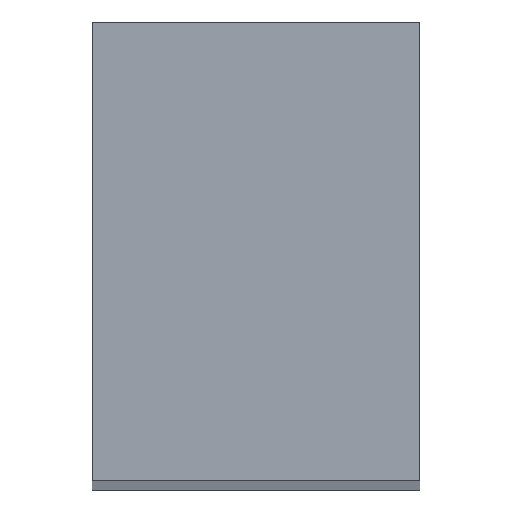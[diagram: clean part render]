
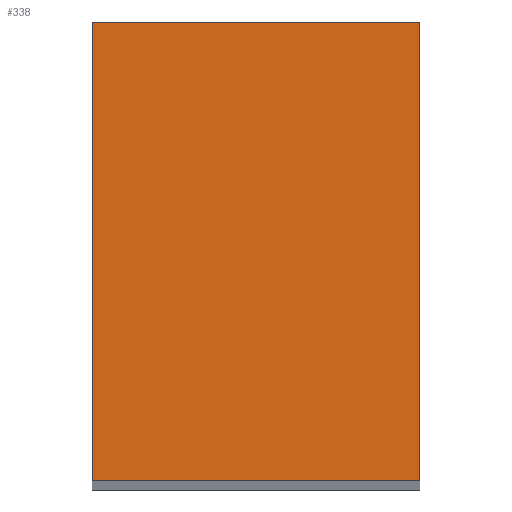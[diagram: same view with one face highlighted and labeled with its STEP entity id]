
A CAD part, top view. The second image highlights one B-rep face of the part: STEP entity #338.
In plain terms, the highlighted planar face has unit normal (0, 0, 1).
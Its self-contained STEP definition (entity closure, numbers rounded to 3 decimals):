
#24 = VERTEX_POINT('',#25);
#25 = CARTESIAN_POINT('',(105.,-184.,360.));
#32 = PLANE('',#33);
#33 = AXIS2_PLACEMENT_3D('',#34,#35,#36);
#34 = CARTESIAN_POINT('',(105.,-184.,28.));
#35 = DIRECTION('',(1.,0.,0.));
#36 = DIRECTION('',(0.,0.,1.));
#44 = PLANE('',#45);
#45 = AXIS2_PLACEMENT_3D('',#46,#47,#48);
#46 = CARTESIAN_POINT('',(105.,-184.,28.));
#47 = DIRECTION('',(0.,1.,0.));
#48 = DIRECTION('',(0.,0.,1.));
#85 = VERTEX_POINT('',#86);
#86 = CARTESIAN_POINT('',(105.,-156.,360.));
#100 = PLANE('',#101);
#101 = AXIS2_PLACEMENT_3D('',#102,#103,#104);
#102 = CARTESIAN_POINT('',(105.,-156.,28.));
#103 = DIRECTION('',(0.,1.,0.));
#104 = DIRECTION('',(0.,0.,1.));
#112 = EDGE_CURVE('',#24,#85,#113,.T.);
#113 = SURFACE_CURVE('',#114,(#118,#125),.PCURVE_S1.);
#114 = LINE('',#115,#116);
#115 = CARTESIAN_POINT('',(105.,-184.,360.));
#116 = VECTOR('',#117,1.);
#117 = DIRECTION('',(0.,1.,0.));
#118 = PCURVE('',#32,#119);
#119 = DEFINITIONAL_REPRESENTATION('',(#120),#124);
#120 = LINE('',#121,#122);
#121 = CARTESIAN_POINT('',(332.,0.));
#122 = VECTOR('',#123,1.);
#123 = DIRECTION('',(0.,-1.));
#124 = ( GEOMETRIC_REPRESENTATION_CONTEXT(2) 
PARAMETRIC_REPRESENTATION_CONTEXT() REPRESENTATION_CONTEXT('2D SPACE',''
  ) );
#125 = PCURVE('',#126,#131);
#126 = PLANE('',#127);
#127 = AXIS2_PLACEMENT_3D('',#128,#129,#130);
#128 = CARTESIAN_POINT('',(105.,-184.,360.));
#129 = DIRECTION('',(0.,0.,1.));
#130 = DIRECTION('',(1.,0.,0.));
#131 = DEFINITIONAL_REPRESENTATION('',(#132),#136);
#132 = LINE('',#133,#134);
#133 = CARTESIAN_POINT('',(0.,0.));
#134 = VECTOR('',#135,1.);
#135 = DIRECTION('',(0.,1.));
#136 = ( GEOMETRIC_REPRESENTATION_CONTEXT(2) 
PARAMETRIC_REPRESENTATION_CONTEXT() REPRESENTATION_CONTEXT('2D SPACE',''
  ) );
#144 = VERTEX_POINT('',#145);
#145 = CARTESIAN_POINT('',(125.,-184.,360.));
#152 = PLANE('',#153);
#153 = AXIS2_PLACEMENT_3D('',#154,#155,#156);
#154 = CARTESIAN_POINT('',(125.,-184.,28.));
#155 = DIRECTION('',(1.,0.,0.));
#156 = DIRECTION('',(0.,0.,1.));
#195 = VERTEX_POINT('',#196);
#196 = CARTESIAN_POINT('',(125.,-156.,360.));
#217 = EDGE_CURVE('',#144,#195,#218,.T.);
#218 = SURFACE_CURVE('',#219,(#223,#230),.PCURVE_S1.);
#219 = LINE('',#220,#221);
#220 = CARTESIAN_POINT('',(125.,-184.,360.));
#221 = VECTOR('',#222,1.);
#222 = DIRECTION('',(0.,1.,0.));
#223 = PCURVE('',#152,#224);
#224 = DEFINITIONAL_REPRESENTATION('',(#225),#229);
#225 = LINE('',#226,#227);
#226 = CARTESIAN_POINT('',(332.,0.));
#227 = VECTOR('',#228,1.);
#228 = DIRECTION('',(0.,-1.));
#229 = ( GEOMETRIC_REPRESENTATION_CONTEXT(2) 
PARAMETRIC_REPRESENTATION_CONTEXT() REPRESENTATION_CONTEXT('2D SPACE',''
  ) );
#230 = PCURVE('',#126,#231);
#231 = DEFINITIONAL_REPRESENTATION('',(#232),#236);
#232 = LINE('',#233,#234);
#233 = CARTESIAN_POINT('',(20.,0.));
#234 = VECTOR('',#235,1.);
#235 = DIRECTION('',(0.,1.));
#236 = ( GEOMETRIC_REPRESENTATION_CONTEXT(2) 
PARAMETRIC_REPRESENTATION_CONTEXT() REPRESENTATION_CONTEXT('2D SPACE',''
  ) );
#263 = EDGE_CURVE('',#24,#144,#264,.T.);
#264 = SURFACE_CURVE('',#265,(#269,#276),.PCURVE_S1.);
#265 = LINE('',#266,#267);
#266 = CARTESIAN_POINT('',(105.,-184.,360.));
#267 = VECTOR('',#268,1.);
#268 = DIRECTION('',(1.,0.,0.));
#269 = PCURVE('',#44,#270);
#270 = DEFINITIONAL_REPRESENTATION('',(#271),#275);
#271 = LINE('',#272,#273);
#272 = CARTESIAN_POINT('',(332.,0.));
#273 = VECTOR('',#274,1.);
#274 = DIRECTION('',(0.,1.));
#275 = ( GEOMETRIC_REPRESENTATION_CONTEXT(2) 
PARAMETRIC_REPRESENTATION_CONTEXT() REPRESENTATION_CONTEXT('2D SPACE',''
  ) );
#276 = PCURVE('',#126,#277);
#277 = DEFINITIONAL_REPRESENTATION('',(#278),#282);
#278 = LINE('',#279,#280);
#279 = CARTESIAN_POINT('',(0.,0.));
#280 = VECTOR('',#281,1.);
#281 = DIRECTION('',(1.,0.));
#282 = ( GEOMETRIC_REPRESENTATION_CONTEXT(2) 
PARAMETRIC_REPRESENTATION_CONTEXT() REPRESENTATION_CONTEXT('2D SPACE',''
  ) );
#310 = EDGE_CURVE('',#85,#195,#311,.T.);
#311 = SURFACE_CURVE('',#312,(#316,#323),.PCURVE_S1.);
#312 = LINE('',#313,#314);
#313 = CARTESIAN_POINT('',(105.,-156.,360.));
#314 = VECTOR('',#315,1.);
#315 = DIRECTION('',(1.,0.,0.));
#316 = PCURVE('',#100,#317);
#317 = DEFINITIONAL_REPRESENTATION('',(#318),#322);
#318 = LINE('',#319,#320);
#319 = CARTESIAN_POINT('',(332.,0.));
#320 = VECTOR('',#321,1.);
#321 = DIRECTION('',(0.,1.));
#322 = ( GEOMETRIC_REPRESENTATION_CONTEXT(2) 
PARAMETRIC_REPRESENTATION_CONTEXT() REPRESENTATION_CONTEXT('2D SPACE',''
  ) );
#323 = PCURVE('',#126,#324);
#324 = DEFINITIONAL_REPRESENTATION('',(#325),#329);
#325 = LINE('',#326,#327);
#326 = CARTESIAN_POINT('',(0.,28.));
#327 = VECTOR('',#328,1.);
#328 = DIRECTION('',(1.,0.));
#329 = ( GEOMETRIC_REPRESENTATION_CONTEXT(2) 
PARAMETRIC_REPRESENTATION_CONTEXT() REPRESENTATION_CONTEXT('2D SPACE',''
  ) );
#338 = ADVANCED_FACE('',(#339),#126,.T.);
#339 = FACE_BOUND('',#340,.T.);
#340 = EDGE_LOOP('',(#341,#342,#343,#344));
#341 = ORIENTED_EDGE('',*,*,#112,.F.);
#342 = ORIENTED_EDGE('',*,*,#263,.T.);
#343 = ORIENTED_EDGE('',*,*,#217,.T.);
#344 = ORIENTED_EDGE('',*,*,#310,.F.);
